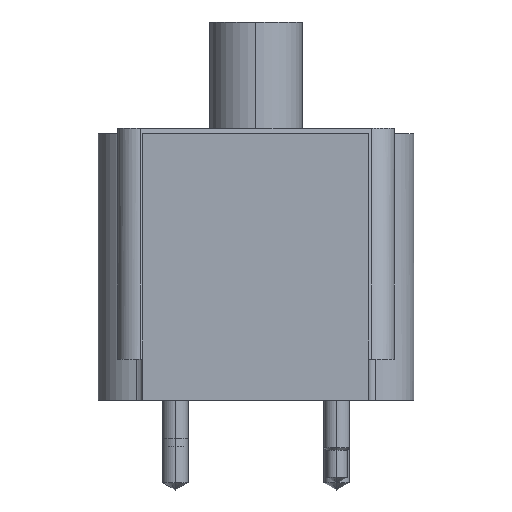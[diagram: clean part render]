
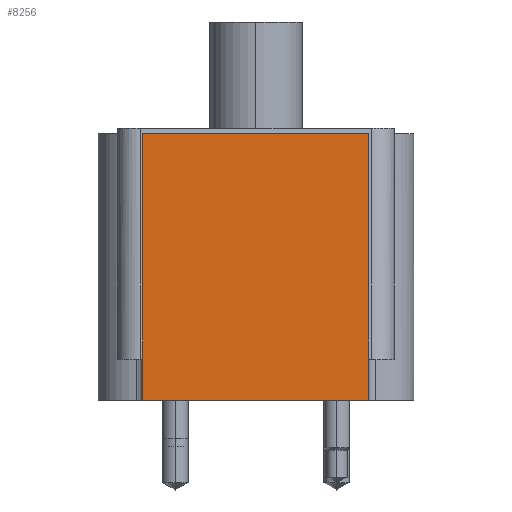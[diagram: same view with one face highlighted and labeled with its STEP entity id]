
A CAD part, left-side view. The second image highlights one B-rep face of the part: STEP entity #8256.
In plain terms, the highlighted planar face has unit normal (-1, 0, 0).
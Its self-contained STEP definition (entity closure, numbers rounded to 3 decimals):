
#8217=CARTESIAN_POINT('',(-84.201,-34.988,82.55));
#8218=VERTEX_POINT('',#8217);
#8219=CARTESIAN_POINT('',(-84.201,-34.988,0.0));
#8220=VERTEX_POINT('',#8219);
#8221=CARTESIAN_POINT('',(-84.201,-34.988,0.0));
#8222=DIRECTION('',(0.0,0.0,-1.0));
#8223=VECTOR('',#8222,1.0);
#8224=LINE('',#8221,#8223);
#8225=EDGE_CURVE('',#8218,#8220,#8224,.T.);
#8226=ORIENTED_EDGE('',*,*,#8225,.F.);
#8227=CARTESIAN_POINT('',(-84.201,34.988,82.55));
#8228=VERTEX_POINT('',#8227);
#8229=CARTESIAN_POINT('',(-84.201,0.0,82.55));
#8230=DIRECTION('',(0.0,1.0,0.0));
#8231=VECTOR('',#8230,1.0);
#8232=LINE('',#8229,#8231);
#8233=EDGE_CURVE('',#8218,#8228,#8232,.T.);
#8234=ORIENTED_EDGE('',*,*,#8233,.T.);
#8235=CARTESIAN_POINT('',(-84.201,34.988,0.0));
#8236=VERTEX_POINT('',#8235);
#8237=CARTESIAN_POINT('',(-84.201,34.988,0.0));
#8238=DIRECTION('',(0.0,0.0,1.0));
#8239=VECTOR('',#8238,1.0);
#8240=LINE('',#8237,#8239);
#8241=EDGE_CURVE('',#8236,#8228,#8240,.T.);
#8242=ORIENTED_EDGE('',*,*,#8241,.F.);
#8243=CARTESIAN_POINT('',(-84.201,0.0,0.0));
#8244=DIRECTION('',(0.0,-1.0,0.0));
#8245=VECTOR('',#8244,1.0);
#8246=LINE('',#8243,#8245);
#8247=EDGE_CURVE('',#8236,#8220,#8246,.T.);
#8248=ORIENTED_EDGE('',*,*,#8247,.T.);
#8249=EDGE_LOOP('',(#8226,#8234,#8242,#8248));
#8250=FACE_OUTER_BOUND('',#8249,.T.);
#8251=CARTESIAN_POINT('',(-84.201,0.0,0.0));
#8252=DIRECTION('',(-1.0,0.0,-0.0));
#8253=DIRECTION('',(-0.0,0.0,1.0));
#8254=AXIS2_PLACEMENT_3D('',#8251,#8252,#8253);
#8255=PLANE('',#8254);
#8256=ADVANCED_FACE('',(#8250),#8255,.T.);
